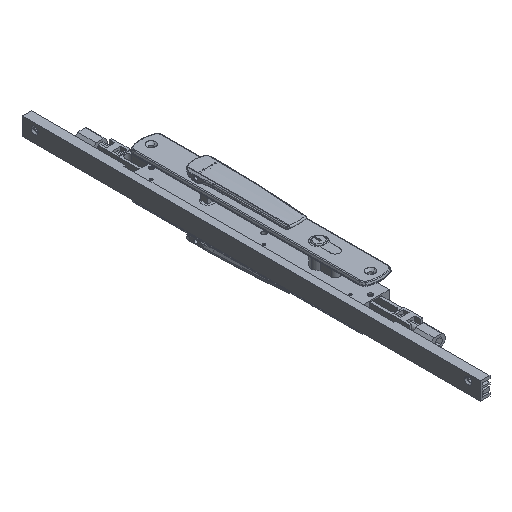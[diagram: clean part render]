
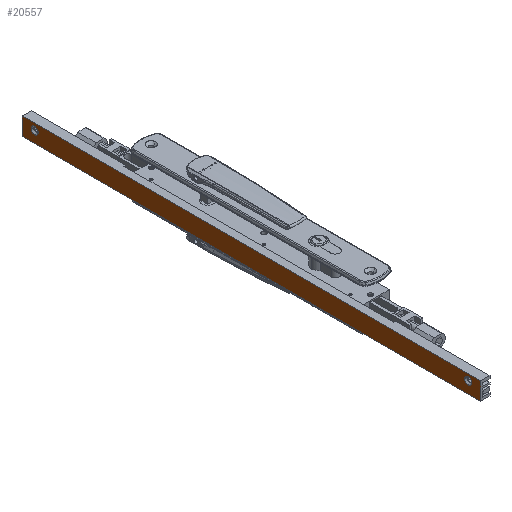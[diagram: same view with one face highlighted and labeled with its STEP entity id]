
A CAD part, isometric view. The second image highlights one B-rep face of the part: STEP entity #20557.
In plain terms, the highlighted planar face has unit normal (-1, 0, 0) as drawn and (0, 1, 0) by its records, which use the part's own axes.
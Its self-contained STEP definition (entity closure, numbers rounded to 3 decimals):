
#127 = CARTESIAN_POINT ( 'NONE',  ( 11.8, 12.4, 529. ) ) ;
#1104 = CARTESIAN_POINT ( 'NONE',  ( 19.3, 12.4, 0. ) ) ;
#1395 = LINE ( 'NONE', #49846, #25697 ) ;
#2156 = CIRCLE ( 'NONE', #5569, 4.216 ) ;
#3155 = VERTEX_POINT ( 'NONE', #1104 ) ;
#3179 = EDGE_CURVE ( 'NONE', #41046, #12309, #40393, .T. ) ;
#3499 = CARTESIAN_POINT ( 'NONE',  ( 11.8, 12.4, 529. ) ) ;
#3868 = PLANE ( 'NONE',  #39880 ) ;
#4412 = CARTESIAN_POINT ( 'NONE',  ( 20.8, 12.4, 544. ) ) ;
#5305 = EDGE_CURVE ( 'NONE', #51398, #3155, #9481, .T. ) ;
#5367 = DIRECTION ( 'NONE',  ( 0., 0., 1. ) ) ;
#5569 = AXIS2_PLACEMENT_3D ( 'NONE', #127, #20121, #44840 ) ;
#5573 = DIRECTION ( 'NONE',  ( 0., 0., -1. ) ) ;
#7366 = ORIENTED_EDGE ( 'NONE', *, *, #17665, .T. ) ;
#7524 = DIRECTION ( 'NONE',  ( 0., 1., 0. ) ) ;
#7873 = DIRECTION ( 'NONE',  ( 1., 0., 0. ) ) ;
#8592 = EDGE_CURVE ( 'NONE', #33715, #49358, #20825, .T. ) ;
#8841 = EDGE_CURVE ( 'NONE', #13467, #15887, #41508, .T. ) ;
#9481 = LINE ( 'NONE', #13236, #12115 ) ;
#9647 = DIRECTION ( 'NONE',  ( -1., 0., 0. ) ) ;
#10005 = DIRECTION ( 'NONE',  ( -1., 0., 0. ) ) ;
#12028 = ORIENTED_EDGE ( 'NONE', *, *, #8592, .F. ) ;
#12115 = VECTOR ( 'NONE', #29197, 1000. ) ;
#12309 = VERTEX_POINT ( 'NONE', #41552 ) ;
#12575 = CARTESIAN_POINT ( 'NONE',  ( -1.7, 12.4, 544. ) ) ;
#13236 = CARTESIAN_POINT ( 'NONE',  ( 19.3, 12.4, 544. ) ) ;
#13252 = ORIENTED_EDGE ( 'NONE', *, *, #46558, .F. ) ;
#13467 = VERTEX_POINT ( 'NONE', #12575 ) ;
#15614 = CARTESIAN_POINT ( 'NONE',  ( 11.8, 12.4, 524.784 ) ) ;
#15887 = VERTEX_POINT ( 'NONE', #19503 ) ;
#17572 = CARTESIAN_POINT ( 'NONE',  ( -1.7, 12.4, 544. ) ) ;
#17586 = CARTESIAN_POINT ( 'NONE',  ( 11.8, 12.4, 10.784 ) ) ;
#17599 = EDGE_CURVE ( 'NONE', #12309, #41046, #17861, .T. ) ;
#17665 = EDGE_CURVE ( 'NONE', #3155, #15887, #42178, .T. ) ;
#17861 = CIRCLE ( 'NONE', #33144, 4.216 ) ;
#18286 = VECTOR ( 'NONE', #5573, 1000. ) ;
#19503 = CARTESIAN_POINT ( 'NONE',  ( -1.7, 12.4, 0. ) ) ;
#20121 = DIRECTION ( 'NONE',  ( 0., 1., 0. ) ) ;
#20404 = FACE_OUTER_BOUND ( 'NONE', #45919, .T. ) ;
#20557 = ADVANCED_FACE ( 'NONE', ( #25891, #40859, #20404 ), #3868, .F. ) ;
#20825 = CIRCLE ( 'NONE', #21693, 4.216 ) ;
#21693 = AXIS2_PLACEMENT_3D ( 'NONE', #3499, #7524, #31994 ) ;
#24094 = DIRECTION ( 'NONE',  ( 0., 0., 1. ) ) ;
#24293 = AXIS2_PLACEMENT_3D ( 'NONE', #50302, #29821, #5367 ) ;
#25334 = EDGE_LOOP ( 'NONE', ( #13252, #12028 ) ) ;
#25697 = VECTOR ( 'NONE', #9647, 1000. ) ;
#25891 = FACE_BOUND ( 'NONE', #38037, .T. ) ;
#27826 = DIRECTION ( 'NONE',  ( 0., 1., 0. ) ) ;
#29197 = DIRECTION ( 'NONE',  ( 0., 0., -1. ) ) ;
#29442 = CARTESIAN_POINT ( 'NONE',  ( 20.8, 12.4, 0. ) ) ;
#29821 = DIRECTION ( 'NONE',  ( 0., 1., 0. ) ) ;
#30594 = VECTOR ( 'NONE', #10005, 1000. ) ;
#31994 = DIRECTION ( 'NONE',  ( 0., 0., 1. ) ) ;
#33144 = AXIS2_PLACEMENT_3D ( 'NONE', #39266, #27826, #24094 ) ;
#33715 = VERTEX_POINT ( 'NONE', #15614 ) ;
#36602 = DIRECTION ( 'NONE',  ( 0., -1., 0. ) ) ;
#38037 = EDGE_LOOP ( 'NONE', ( #50308, #41661 ) ) ;
#38404 = ORIENTED_EDGE ( 'NONE', *, *, #41706, .F. ) ;
#39266 = CARTESIAN_POINT ( 'NONE',  ( 11.8, 12.4, 15. ) ) ;
#39880 = AXIS2_PLACEMENT_3D ( 'NONE', #4412, #36602, #7873 ) ;
#40393 = CIRCLE ( 'NONE', #24293, 4.216 ) ;
#40859 = FACE_BOUND ( 'NONE', #25334, .T. ) ;
#40986 = ORIENTED_EDGE ( 'NONE', *, *, #8841, .F. ) ;
#41046 = VERTEX_POINT ( 'NONE', #17586 ) ;
#41508 = LINE ( 'NONE', #17572, #18286 ) ;
#41552 = CARTESIAN_POINT ( 'NONE',  ( 11.8, 12.4, 19.216 ) ) ;
#41661 = ORIENTED_EDGE ( 'NONE', *, *, #3179, .F. ) ;
#41706 = EDGE_CURVE ( 'NONE', #51398, #13467, #1395, .T. ) ;
#42178 = LINE ( 'NONE', #29442, #30594 ) ;
#44840 = DIRECTION ( 'NONE',  ( 0., 0., 1. ) ) ;
#45812 = CARTESIAN_POINT ( 'NONE',  ( 11.8, 12.4, 533.216 ) ) ;
#45919 = EDGE_LOOP ( 'NONE', ( #38404, #46714, #7366, #40986 ) ) ;
#46558 = EDGE_CURVE ( 'NONE', #49358, #33715, #2156, .T. ) ;
#46714 = ORIENTED_EDGE ( 'NONE', *, *, #5305, .T. ) ;
#49232 = CARTESIAN_POINT ( 'NONE',  ( 19.3, 12.4, 544. ) ) ;
#49358 = VERTEX_POINT ( 'NONE', #45812 ) ;
#49846 = CARTESIAN_POINT ( 'NONE',  ( 20.8, 12.4, 544. ) ) ;
#50302 = CARTESIAN_POINT ( 'NONE',  ( 11.8, 12.4, 15. ) ) ;
#50308 = ORIENTED_EDGE ( 'NONE', *, *, #17599, .F. ) ;
#51398 = VERTEX_POINT ( 'NONE', #49232 ) ;
